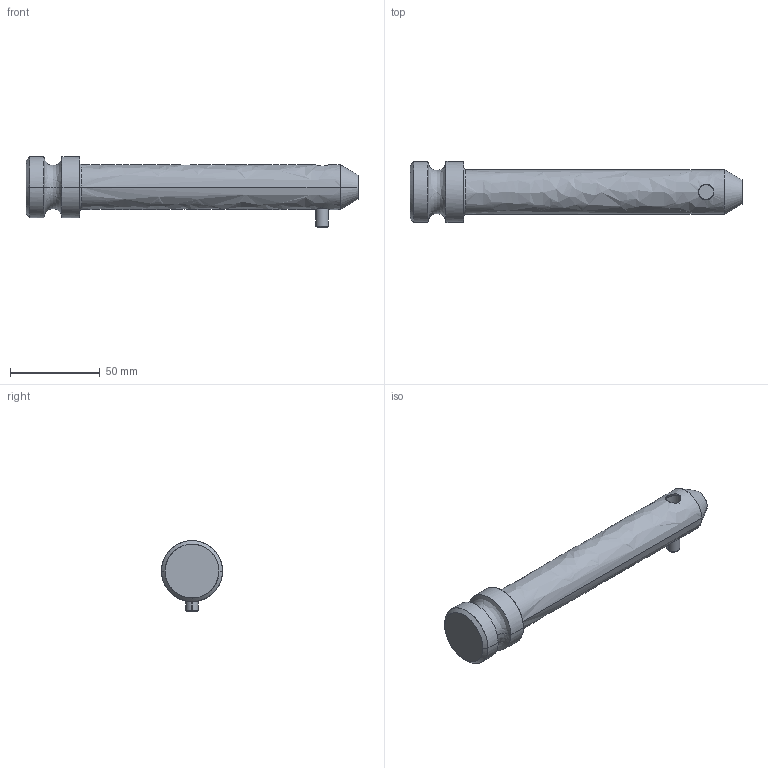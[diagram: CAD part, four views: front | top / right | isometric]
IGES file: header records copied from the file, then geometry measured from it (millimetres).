
Global section: file name: E:\UnigraphicsGraphicData\MISUMI_PRESS-PARTS\IGES\3d_hlfb25_04125_r00.igs; native system: NX V5.0; preprocessor: UGS NX IGES V5.0; author: MISUMI; date: 20110105.161013; units: millimetre
Bounding box: 185 x 34 x 39.47 mm (x, y, z)
Surface area: 18200.9 mm2 (no closed solid volume)
Topology: 0 solids, 0 shells, 58 faces, 348 edges, 348 vertices
Faces by surface type: bspline 58
